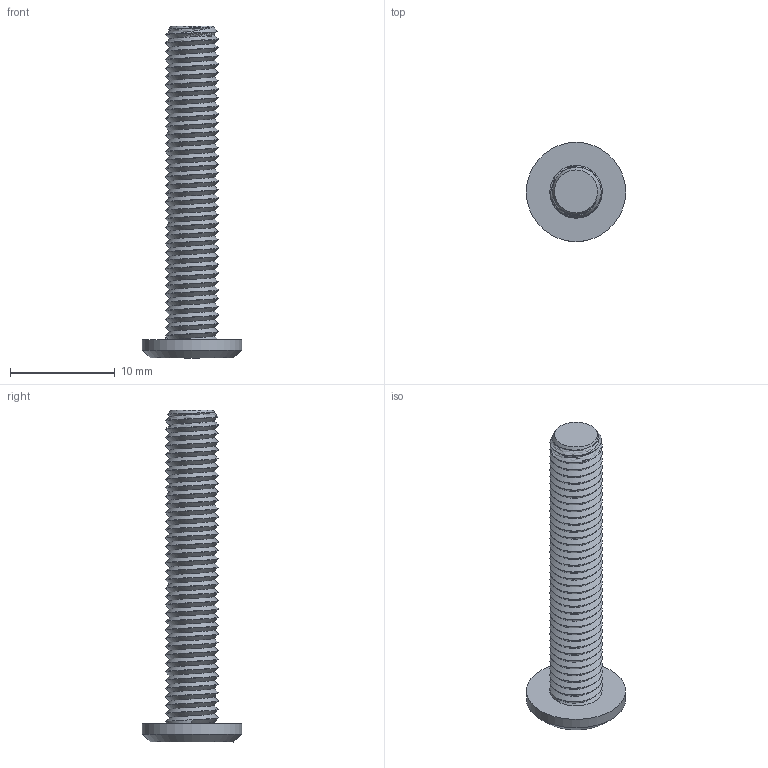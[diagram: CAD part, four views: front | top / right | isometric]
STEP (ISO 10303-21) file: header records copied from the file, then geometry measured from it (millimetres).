
FILE_DESCRIPTION(/* description */ ('STEP AP242 Edition 2','CAx-IF Rec.Pracs.---Representation and Presentation of Product Manufacturing Information (PMI)---4.0---2014-10-13','CAx-IF Rec.Pracs.---3D Tessellated Geometry---0.4---2014-09-14','2;1','CAx-IF Rec.Pracs.---User Defined Attributes---1.5---2016-08-15'),/* implementation_level */ '2;1');
FILE_NAME(/* name */ 'Final Build - M5x30',/* time_stamp */ '2026-08-31T23:26:18Z',/* author */ (''),/* organization */ (''),/* preprocessor_version */ 'ST-DEVELOPER v20',/* originating_system */ 'ONSHAPE BY PTC INC, 1.220',/* authorisation */ ' ');
FILE_SCHEMA (('AP242_MANAGED_MODEL_BASED_3D_ENGINEERING_MIM_LF { 1 0 10303 442 3 1 4 }'));
Length unit declared in the file: metre
Products named in the file (1): M5x30
Bounding box: 9.5 x 9.5 x 31.75 mm (x, y, z)
Volume: 558.1 mm3; surface area: 793.2 mm2
Topology: 1 solids, 1 shells, 18 faces, 113 edges, 99 vertices
Faces by surface type: plane 11, cylinder 3, cone 2, bspline 2
Full cylindrical faces by diameter (mm): 9.5 x1
Entity records: 4122 total; most frequent: CARTESIAN_POINT 3447, ORIENTED_EDGE 216, EDGE_CURVE 108, VERTEX_POINT 97, DIRECTION 70, AXIS2_PLACEMENT_3D 24, EDGE_LOOP 23, FACE_BOUND 23
